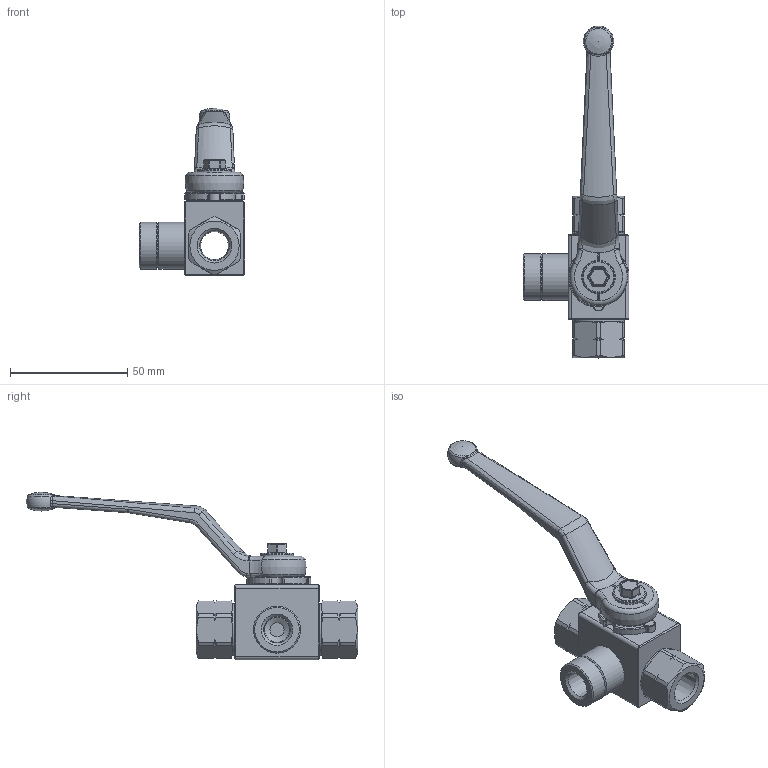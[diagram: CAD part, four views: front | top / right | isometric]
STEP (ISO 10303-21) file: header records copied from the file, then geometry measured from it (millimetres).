
FILE_DESCRIPTION( ( 'Unknown' ), '1' );
FILE_NAME( 'H:/PISTER/3D-MODELLE/BK3 stp/BK3 DN6 1_4 NPT.stp', 'Unknown', ( 'Unknown' ), ( 'Unknown' ), 'PSStep 14.0', 'Unknown', ' ' );
FILE_SCHEMA( ( 'AUTOMOTIVE_DESIGN { 1 0 10303 214 1 1 1 1 }' ) );
Length unit declared in the file: millimetre
Products named in the file (10): Assem1; 06-008-059-oa7; 09-09-002; 58-28740-07-oa8; Griff_SW9; 58-0933-133; 04-006-087-oa9; 04-006-087-oa10; 01-008-017-oa11; 04-006-037-oa12
Assembly tree (9 placements, depth 2):
  Assem1
    06-008-059-oa7
    09-09-002
    58-28740-07-oa8
    Griff_SW9
    58-0933-133
    04-006-087-oa9
    04-006-087-oa10
    01-008-017-oa11
    04-006-037-oa12
Bounding box: 45.2 x 141.5 x 71.4 mm (x, y, z)
Volume: 33323.5 mm3; surface area: 24109.7 mm2
Topology: 9 solids, 9 shells, 417 faces, 1050 edges, 636 vertices
Faces by surface type: cylinder 141, plane 120, cone 56, bspline 42, torus 38, sphere 20
Full cylindrical faces by diameter (mm): 4.134 x1, 4.98 x1, 5 x1, 6 x1, 10.734 x1, 11.862 x2, 14 x2, 14.3 x1, 20 x3, 21 x2, 22 x2, 22.5 x2
Entity records: 17224 total; most frequent: CARTESIAN_POINT 4351, DIRECTION 1985, ORIENTED_EDGE 1912, EDGE_CURVE 956, AXIS2_PLACEMENT_3D 810, VERTEX_POINT 613, EDGE_LOOP 490, FACE_OUTER_BOUND 446
